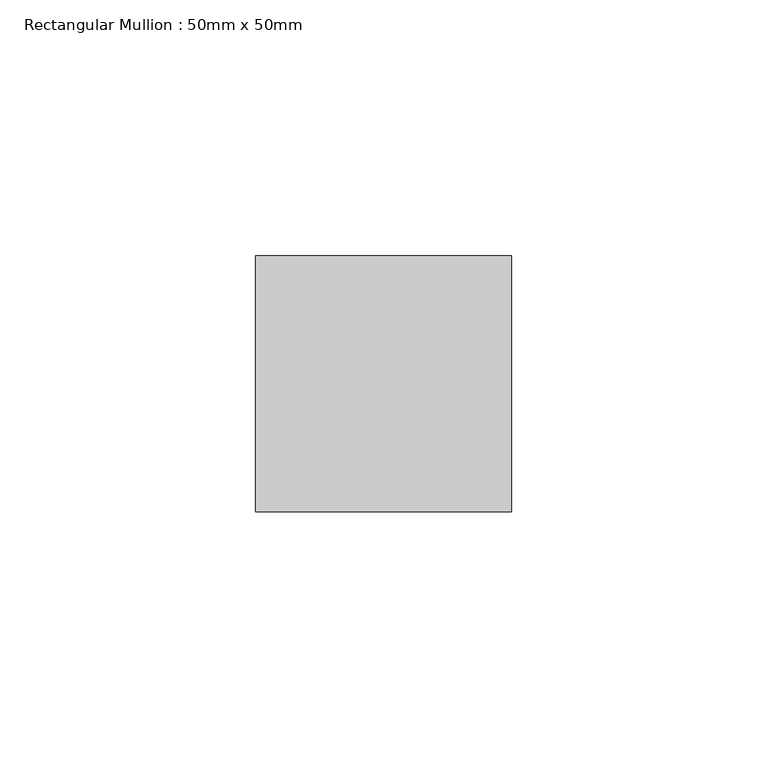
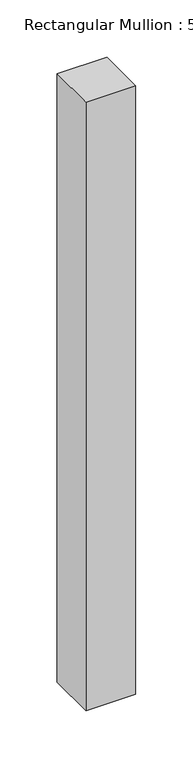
"""IFC4 building model written with IfcOpenShell, lengths in millimetres: member geometry, Rectangular Mullion : 50mm x 50mm."""

from ifc_helpers import new_model, si_unit, frame, origin, place, context, project, spatial, polyline, outline, extrude, source, transform, mapped, element, save


def rectangular_mullion_50mm_x_50mm_81d8c1f3(model_context):
    return source(origin(), model_context, "Body", "SweptSolid", [
        extrude(outline(polyline([(0.0, 25.0), (0.0, -25.0), (-50.0, -25.0), (-50.0, 25.0), (0.0, 25.0)])), frame((0.0, 0.0, -647.5), z_axis=(0.0, 0.0, 1.0), x_axis=(1.0, 0.0, 0.0)), (0.0, 0.0, 1.0), 647.5),
    ])


if __name__ == "__main__":
    model = new_model("IFC4")
    model_context = context("Model", 3, world=origin())
    ifc_project = project(units=[si_unit("LENGTHUNIT", "METRE", prefix="MILLI")], contexts=[model_context])
    site = spatial("IfcSite", under=ifc_project)
    building = spatial("IfcBuilding", under=site)
    placement = place(None, origin())
    rectangular_mullion_50mm_x_50mm_shape = rectangular_mullion_50mm_x_50mm_81d8c1f3(model_context)
    element("IfcMember", 1, ObjectType="Rectangular Mullion : 50mm x 50mm", at=placement, inside=building, context=model_context, shape_type="MappedRepresentation", body=[
        mapped(rectangular_mullion_50mm_x_50mm_shape, transform((0.0, 0.0, 0.0), x_axis=(1.0, 0.0, 0.0), y_axis=(0.0, 1.0, 0.0), z_axis=(0.0, 0.0, 1.0))),
    ])
    save(model, "model.ifc")
